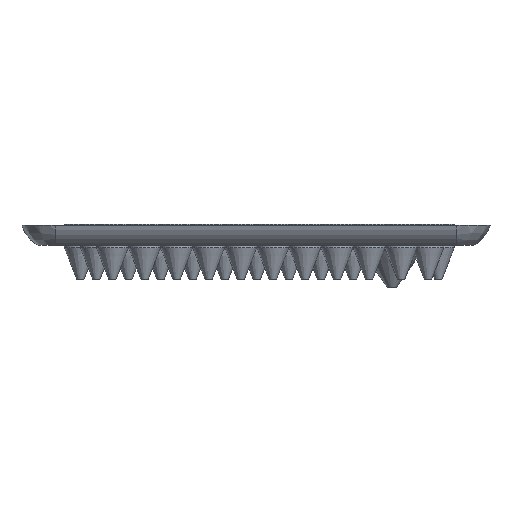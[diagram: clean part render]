
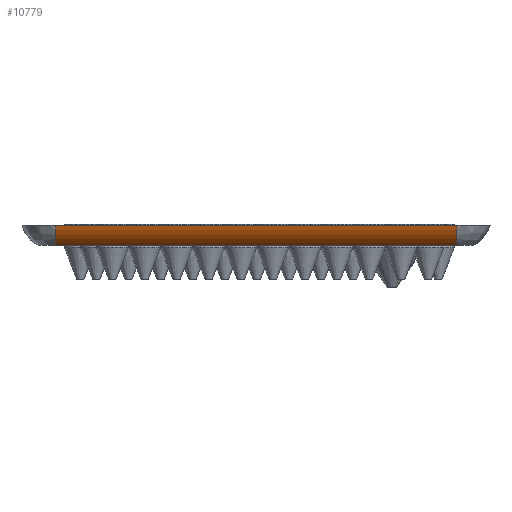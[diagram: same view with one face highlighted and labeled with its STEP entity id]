
A CAD part, front view. The second image highlights one B-rep face of the part: STEP entity #10779.
In plain terms, the highlighted free-form (B-spline) face has degree [3, 1] with [4, 2] control points.
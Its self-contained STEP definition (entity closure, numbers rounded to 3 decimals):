
#167 = ORIENTED_EDGE ( 'NONE', *, *, #13260, .T. ) ;
#168 = ORIENTED_EDGE ( 'NONE', *, *, #13221, .T. ) ;
#169 = ORIENTED_EDGE ( 'NONE', *, *, #13259, .F. ) ;
#170 = ORIENTED_EDGE ( 'NONE', *, *, #13179, .F. ) ;
#1798 = LINE ( 'NONE', #16326, #1800 ) ;
#1800 = VECTOR ( 'NONE', #16327, 1000. ) ;
#1842 = LINE ( 'NONE', #16452, #1846 ) ;
#1846 = VECTOR ( 'NONE', #16451, 1000. ) ;
#4033 = VERTEX_POINT ( 'NONE', #6868 ) ;
#4663 =( BOUNDED_SURFACE ( )  B_SPLINE_SURFACE ( 3, 1, ( 
 ( #9763, #9761 ),
 ( #9766, #9767 ),
 ( #9768, #9769 ),
 ( #9770, #9771 ) ),
 .UNSPECIFIED., .F., .F., .T. ) 
 B_SPLINE_SURFACE_WITH_KNOTS ( ( 4, 4 ),
 ( 2, 2 ),
 ( 0., 1. ),
 ( 0., 1. ),
 .UNSPECIFIED. ) 
 GEOMETRIC_REPRESENTATION_ITEM ( )  RATIONAL_B_SPLINE_SURFACE ( (
 ( 1., 1.),
 ( 0.952, 0.952),
 ( 0.952, 0.952),
 ( 1., 1.) ) ) 
 REPRESENTATION_ITEM ( '' )  SURFACE ( )  );
#5598 = VERTEX_POINT ( 'NONE', #7373 ) ;
#5609 = VERTEX_POINT ( 'NONE', #7384 ) ;
#5610 = VERTEX_POINT ( 'NONE', #7385 ) ;
#6868 = CARTESIAN_POINT ( 'NONE',  ( -205.7, -0.176, 2. ) ) ;
#7373 = CARTESIAN_POINT ( 'NONE',  ( -15.7, -0.176, 2. ) ) ;
#7384 = CARTESIAN_POINT ( 'NONE',  ( -15.691, 7.428, -7.5 ) ) ;
#7385 = CARTESIAN_POINT ( 'NONE',  ( -205.691, 7.428, -7.5 ) ) ;
#8710 = FACE_OUTER_BOUND ( 'NONE', #15290, .T. ) ;
#9761 = CARTESIAN_POINT ( 'NONE',  ( -205.691, 7.428, -7.5 ) ) ;
#9763 = CARTESIAN_POINT ( 'NONE',  ( -15.691, 7.428, -7.5 ) ) ;
#9766 = CARTESIAN_POINT ( 'NONE',  ( -15.695, 3.716, -5.408 ) ) ;
#9767 = CARTESIAN_POINT ( 'NONE',  ( -205.695, 3.716, -5.408 ) ) ;
#9768 = CARTESIAN_POINT ( 'NONE',  ( -15.699, 1.052, -2.081 ) ) ;
#9769 = CARTESIAN_POINT ( 'NONE',  ( -205.699, 1.052, -2.081 ) ) ;
#9770 = CARTESIAN_POINT ( 'NONE',  ( -15.7, -0.176, 2. ) ) ;
#9771 = CARTESIAN_POINT ( 'NONE',  ( -205.7, -0.176, 2. ) ) ;
#10065 = CIRCLE ( 'NONE', #11997, 16.3 ) ;
#10066 = CIRCLE ( 'NONE', #11996, 16.3 ) ;
#10779 = ADVANCED_FACE ( 'NONE', ( #8710 ), #4663, .T. ) ;
#11996 = AXIS2_PLACEMENT_3D ( 'NONE', #16568, #16569, #16570 ) ;
#11997 = AXIS2_PLACEMENT_3D ( 'NONE', #16571, #16572, #16573 ) ;
#13179 = EDGE_CURVE ( 'NONE', #5609, #5610, #1798, .T. ) ;
#13221 = EDGE_CURVE ( 'NONE', #5598, #4033, #1842, .T. ) ;
#13259 = EDGE_CURVE ( 'NONE', #5610, #4033, #10066, .T. ) ;
#13260 = EDGE_CURVE ( 'NONE', #5609, #5598, #10065, .T. ) ;
#15290 = EDGE_LOOP ( 'NONE', ( #167, #168, #169, #170 ) ) ;
#16326 = CARTESIAN_POINT ( 'NONE',  ( -15.691, 7.428, -7.5 ) ) ;
#16327 = DIRECTION ( 'NONE',  ( -1., 0., 0. ) ) ;
#16451 = DIRECTION ( 'NONE',  ( -1., 0., 0. ) ) ;
#16452 = CARTESIAN_POINT ( 'NONE',  ( -15.7, -0.176, 2. ) ) ;
#16568 = CARTESIAN_POINT ( 'NONE',  ( -205.681, 15.431, 6.7 ) ) ;
#16569 = DIRECTION ( 'NONE',  ( -1., 0.001, 0. ) ) ;
#16570 = DIRECTION ( 'NONE',  ( 0., 0., 1. ) ) ;
#16571 = CARTESIAN_POINT ( 'NONE',  ( -15.681, 15.431, 6.7 ) ) ;
#16572 = DIRECTION ( 'NONE',  ( -1., 0.001, 0. ) ) ;
#16573 = DIRECTION ( 'NONE',  ( 0., 0., 1. ) ) ;
